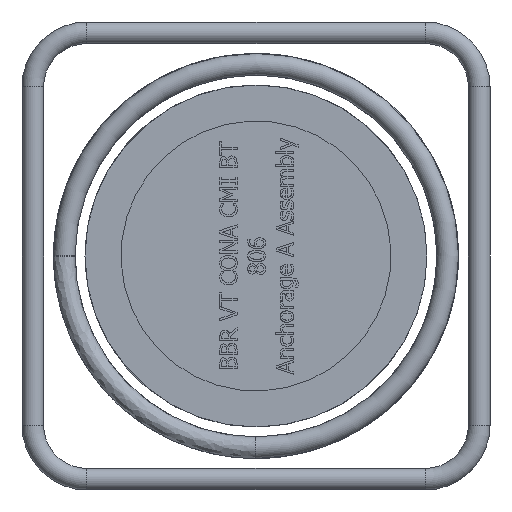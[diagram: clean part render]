
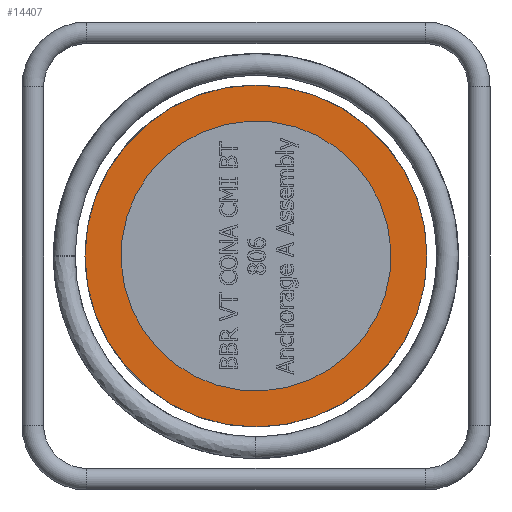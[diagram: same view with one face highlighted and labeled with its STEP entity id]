
A CAD part, left-side view. The second image highlights one B-rep face of the part: STEP entity #14407.
In plain terms, the highlighted planar face has unit normal (-1, 0, 0).
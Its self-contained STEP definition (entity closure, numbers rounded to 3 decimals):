
#106=FACE_BOUND('',#4998,.T.);
#1349=PLANE('',#14978);
#4171=FACE_OUTER_BOUND('',#4997,.T.);
#4997=EDGE_LOOP('',(#12196));
#4998=EDGE_LOOP('',(#12197));
#5219=CIRCLE('',#14979,95.);
#5220=CIRCLE('',#14980,75.);
#6602=VERTEX_POINT('',#25217);
#6603=VERTEX_POINT('',#25219);
#8493=EDGE_CURVE('',#6602,#6602,#5219,.T.);
#8494=EDGE_CURVE('',#6603,#6603,#5220,.T.);
#12196=ORIENTED_EDGE('',*,*,#8493,.T.);
#12197=ORIENTED_EDGE('',*,*,#8494,.F.);
#14407=ADVANCED_FACE('',(#4171,#106),#1349,.T.);
#14978=AXIS2_PLACEMENT_3D('',#25216,#17186,#17187);
#14979=AXIS2_PLACEMENT_3D('',#25218,#17188,#17189);
#14980=AXIS2_PLACEMENT_3D('',#25220,#17190,#17191);
#17186=DIRECTION('center_axis',(-1.,0.,0.));
#17187=DIRECTION('ref_axis',(0.,0.,
1.));
#17188=DIRECTION('center_axis',(-1.,0.,0.));
#17189=DIRECTION('ref_axis',(0.,-1.,0.));
#17190=DIRECTION('center_axis',(-1.,0.,0.));
#17191=DIRECTION('ref_axis',(0.,0.992,0.123));
#25216=CARTESIAN_POINT('Origin',(-75.904,-124.835,0.));
#25217=CARTESIAN_POINT('',(-75.904,45.665,0.));
#25218=CARTESIAN_POINT('Origin',(-75.904,-49.335,0.));
#25219=CARTESIAN_POINT('',(-75.904,-123.767,-9.219));
#25220=CARTESIAN_POINT('Origin',(-75.904,-49.335,0.));
